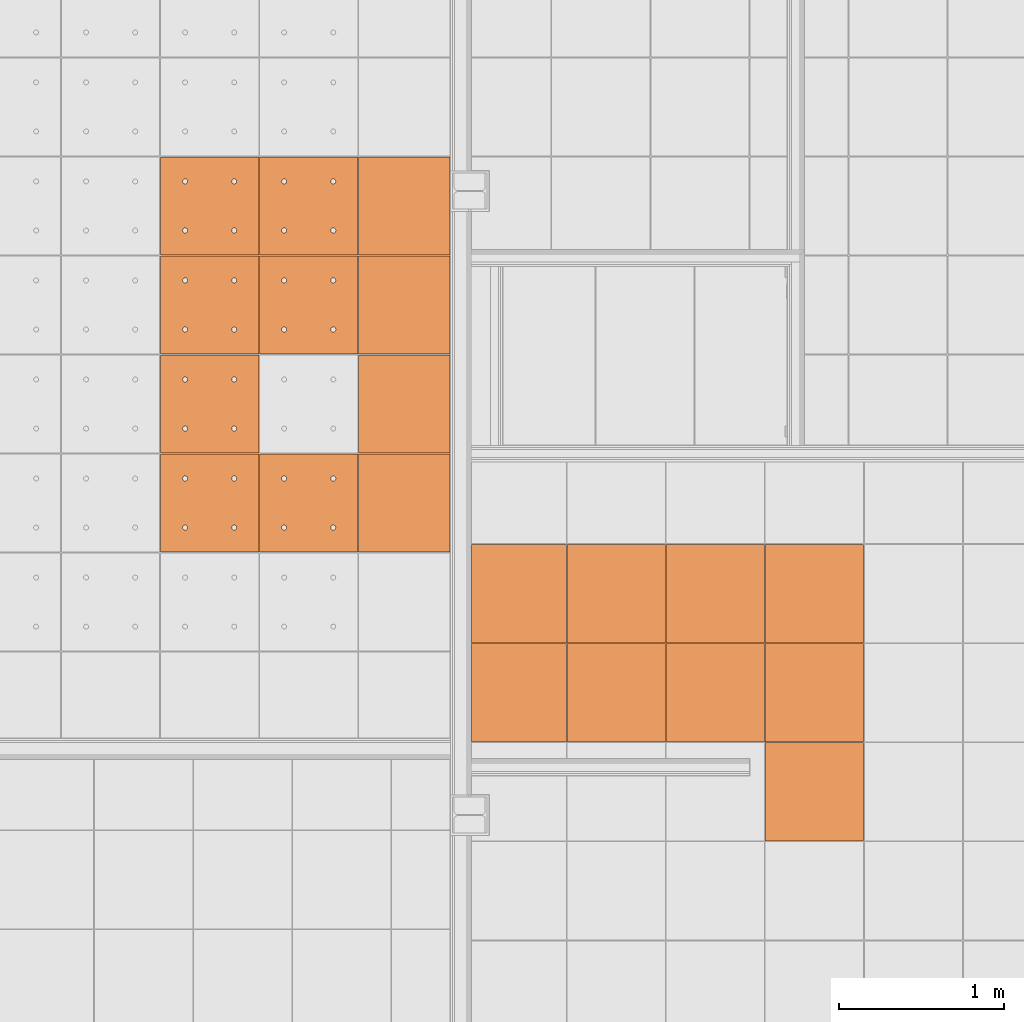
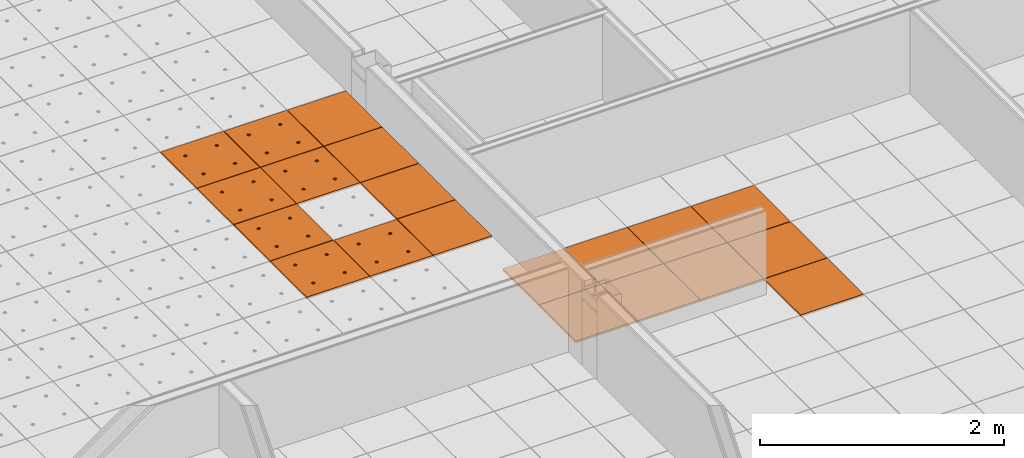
# One storey, part 290 of 338: 20 proxies, 2 elements without a shape of their own.
"""IFC2X3 building model written with IfcOpenShell, lengths in millimetres."""

from ifc_helpers import new_model, entity, si_unit, converted_unit, derived_unit, money_unit, direction, frame, origin_with_axes, place, context, subcontext, project, spatial, faceted_brep, source, transform, mapped, material, type_object, type_shapes, element, aggregate, save


model = new_model("IFC2X3")

# Units and contexts
model_context = context("Model", 3, precision=0.01, world=origin_with_axes(), true_north=direction((0.0, 1.0)))
plan_context = context("Plan", 3, precision=0.01, world=origin_with_axes(), true_north=direction((0.0, 1.0)))
body_context = subcontext(model_context, "Body", "Model", "MODEL_VIEW")
ifc_project = project(units=[si_unit("LENGTHUNIT", "METRE", prefix="MILLI"), si_unit("AREAUNIT", "SQUARE_METRE"), si_unit("VOLUMEUNIT", "CUBIC_METRE"), converted_unit("PLANEANGLEUNIT", "DEGREE", entity("IfcPlaneAngleMeasure", 0.0174532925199), si_unit("PLANEANGLEUNIT", "RADIAN"), dimensions=[0, 0, 0, 0, 0, 0, 0]), money_unit("EUR"), converted_unit("TIMEUNIT", "Year", entity("IfcTimeMeasure", 31556926.0), si_unit("TIMEUNIT", "SECOND"), dimensions=[0, 0, 1, 0, 0, 0, 0]), si_unit("MASSUNIT", "GRAM", prefix="KILO"), si_unit("THERMODYNAMICTEMPERATUREUNIT", "DEGREE_CELSIUS"), si_unit("LUMINOUSINTENSITYUNIT", "LUMEN"), si_unit("ENERGYUNIT", "JOULE", prefix="MEGA"), derived_unit("THERMALCONDUCTANCEUNIT", [(si_unit("POWERUNIT", "WATT"), 1), (si_unit("LENGTHUNIT", "METRE"), -1), (si_unit("THERMODYNAMICTEMPERATUREUNIT", "KELVIN"), -1)]), derived_unit("SPECIFICHEATCAPACITYUNIT", [(si_unit("ENERGYUNIT", "JOULE"), 1), (si_unit("MASSUNIT", "GRAM", prefix="KILO"), -1), (si_unit("THERMODYNAMICTEMPERATUREUNIT", "KELVIN"), -1)]), derived_unit("MASSDENSITYUNIT", [(si_unit("MASSUNIT", "GRAM", prefix="KILO"), 1), (si_unit("VOLUMEUNIT", "CUBIC_METRE"), -1)])], contexts=[model_context, plan_context])

# Site, building, storey
site_placement = place(None, origin_with_axes())
site = spatial("IfcSite", under=ifc_project, at=site_placement, Name="Fortuinstraat Woensdrecht", CompositionType="ELEMENT")
building_placement = place(site_placement, origin_with_axes())
building = spatial("IfcBuilding", under=site, at=building_placement, Name="IKC Fortuna", CompositionType="ELEMENT")
storey_placement = place(building_placement, origin_with_axes())
storey = spatial("IfcBuildingStorey", under=building, at=storey_placement, Name="00 begane grond", CompositionType="ELEMENT", Elevation=0.0)

# Covering, proxies
covering_type = type_object("IfcCoveringType", Name="Curtain Wall Type", PredefinedType="CEILING")
covering_1_placement = place(storey_placement, frame((29266.9722516, 29133.4974296, 2810.0), z_axis=(0.0, 0.0, 1.0), x_axis=(1.0, 0.0, 0.0)))
covering_1 = element("IfcCovering", 1, at=covering_1_placement, inside=storey, type_object=covering_type, Name="45_Plafondafwerking_P02 v", PredefinedType="CEILING")
ifc_material = material(Name="Gipsplaat")
building_element_proxy_type_1 = type_object("IfcBuildingElementProxyType", Name="Distinct Panel 600 x 600 x 20", PredefinedType="NOTDEFINED")
shared_shape_1 = source(origin_with_axes(), body_context, "Body", "Brep", [
    faceted_brep([(-2.49999999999, 2.5, -10.0), (-2.49999999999, 2.5, 10.0), (-597.5, 2.49999999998, 10.0), (-597.5, 2.49999999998, -10.0), (-2.50000000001, 597.5, -10.0), (-2.50000000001, 597.5, 10.0), (-597.5, 597.5, 10.0), (-597.5, 597.5, -10.0)], [[[0, 1, 2, 3]], [[4, 5, 1, 0]], [[1, 5, 6, 2]], [[3, 2, 6, 7]], [[0, 3, 7, 4]], [[7, 6, 5, 4]]]),
])
proxy_1_placement = place(covering_1_placement, frame((1790.03728037, 0.0, 0.0), z_axis=(0.0, 0.0, 1.0), x_axis=(1.0, 0.0, 0.0)))
proxy_1 = element("IfcBuildingElementProxy", 2, at=proxy_1_placement, type_object=building_element_proxy_type_1, material=ifc_material, Name="__Panel-D", context=body_context, shape_type="MappedRepresentation", body=[
    mapped(shared_shape_1, transform((-300.0, 300.0, 0.0), x_axis=(-1.0, 0.0, 0.0), y_axis=(0.0, -1.0, 0.0), z_axis=(0.0, 0.0, 1.0))),
])
proxy_2_placement = place(covering_1_placement, frame((590.037280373, 0.0, 0.0), z_axis=(0.0, 0.0, 1.0), x_axis=(1.0, 0.0, 0.0)))
proxy_2 = element("IfcBuildingElementProxy", 3, at=proxy_2_placement, type_object=building_element_proxy_type_1, material=ifc_material, Name="__Panel-D", context=body_context, shape_type="MappedRepresentation", body=[
    mapped(shared_shape_1, transform((-300.0, 300.0, 0.0), x_axis=(-1.0, 0.0, 0.0), y_axis=(0.0, -1.0, 0.0), z_axis=(0.0, 0.0, 1.0))),
])
proxy_3_placement = place(covering_1_placement, frame((1190.03728037, 0.0, 0.0), z_axis=(0.0, 0.0, 1.0), x_axis=(1.0, 0.0, 0.0)))
proxy_3 = element("IfcBuildingElementProxy", 4, at=proxy_3_placement, type_object=building_element_proxy_type_1, material=ifc_material, Name="__Panel-D", context=body_context, shape_type="MappedRepresentation", body=[
    mapped(shared_shape_1, transform((-300.0, 300.0, 0.0), x_axis=(-1.0, 0.0, 0.0), y_axis=(0.0, -1.0, 0.0), z_axis=(0.0, 0.0, 1.0))),
])
proxy_4_placement = place(covering_1_placement, frame((1190.03728037, -600.0, 0.0), z_axis=(0.0, 0.0, 1.0), x_axis=(1.0, 0.0, 0.0)))
proxy_4 = element("IfcBuildingElementProxy", 5, at=proxy_4_placement, type_object=building_element_proxy_type_1, material=ifc_material, Name="__Panel-D", context=body_context, shape_type="MappedRepresentation", body=[
    mapped(shared_shape_1, transform((-300.0, 300.0, 0.0), x_axis=(-1.0, 0.0, 0.0), y_axis=(0.0, -1.0, 0.0), z_axis=(0.0, 0.0, 1.0))),
])
proxy_5_placement = place(covering_1_placement, frame((1790.03728037, -1200.0, 0.0), z_axis=(0.0, 0.0, 1.0), x_axis=(1.0, 0.0, 0.0)))
proxy_5 = element("IfcBuildingElementProxy", 6, at=proxy_5_placement, type_object=building_element_proxy_type_1, material=ifc_material, Name="__Panel-D", context=body_context, shape_type="MappedRepresentation", body=[
    mapped(shared_shape_1, transform((-300.0, 300.0, 0.0), x_axis=(-1.0, 0.0, 0.0), y_axis=(0.0, -1.0, 0.0), z_axis=(0.0, 0.0, 1.0))),
])
shared_shape_2 = source(origin_with_axes(), body_context, "Body", "Brep", [
    faceted_brep([(-2.5000069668, 2.4999963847, -10.0), (-2.5000069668, 2.4999963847, 10.0), (-597.499995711, 2.50000275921, 10.0), (-597.499995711, 2.50000275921, -10.0), (-2.50000214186, 597.499967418, -10.0), (-2.50000214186, 597.499967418, 10.0), (-597.499990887, 597.499973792, 10.0), (-597.499990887, 597.499973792, -10.0)], [[[0, 1, 2, 3]], [[4, 5, 1, 0]], [[1, 5, 6, 2]], [[3, 2, 6, 7]], [[0, 3, 7, 4]], [[7, 6, 5, 4]]]),
])
type_shapes(building_element_proxy_type_1, [shared_shape_1, shared_shape_2])
proxy_6_placement = place(covering_1_placement, frame((1790.03728037, -600.0, 0.0), z_axis=(0.0, 0.0, 1.0), x_axis=(1.0, 0.0, 0.0)))
proxy_6 = element("IfcBuildingElementProxy", 7, at=proxy_6_placement, type_object=building_element_proxy_type_1, material=ifc_material, Name="__Panel-D", context=body_context, shape_type="MappedRepresentation", body=[
    mapped(shared_shape_2, transform((-300.0, 300.0, 0.0), x_axis=(-1.0, 0.0, 0.0), y_axis=(0.0, -1.0, 0.0), z_axis=(0.0, 0.0, 1.0))),
])
proxy_7_placement = place(covering_1_placement, frame((590.037280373, -600.0, 0.0), z_axis=(0.0, 0.0, 1.0), x_axis=(1.0, 0.0, 0.0)))
proxy_7 = element("IfcBuildingElementProxy", 8, at=proxy_7_placement, type_object=building_element_proxy_type_1, material=ifc_material, Name="__Panel-D", context=body_context, shape_type="MappedRepresentation", body=[
    mapped(shared_shape_2, transform((-300.0, 300.0, 0.0), x_axis=(-1.0, 0.0, 0.0), y_axis=(0.0, -1.0, 0.0), z_axis=(0.0, 0.0, 1.0))),
])

covering_2_placement = place(storey_placement, frame((24394.3550152, 31482.3495284, 3210.0), z_axis=(0.0, 0.0, 1.0), x_axis=(1.0, 0.0, 0.0)))
covering_2 = element("IfcCovering", 9, at=covering_2_placement, inside=storey, type_object=covering_type, Name="45_Plafondafwerking_P01", PredefinedType="CEILING")
building_element_proxy_type_2 = type_object("IfcBuildingElementProxyType", Name="Main Panel 600 x 600 x 20", PredefinedType="NOTDEFINED")
shared_shape_3 = source(origin_with_axes(), body_context, "Body", "Brep", [
    faceted_brep([(2.49999999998, 2.49999999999, -10.0), (300.0, 2.49999999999, -10.0), (300.0, 2.49999999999, 10.0), (2.49999999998, 2.49999999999, 10.0), (2.49999999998, 300.0, -10.0), (2.49999999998, 597.5, -10.0), (300.0, 597.5, -10.0), (597.5, 597.5, -10.0), (597.5, 300.0, -10.0), (597.5, 2.49999999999, -10.0), (166.25, 450.06232995, -10.0), (165.79423259, 452.64711538, -10.0), (164.896546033, 455.11348892, -10.0), (163.58421608, 457.38651108, -10.0), (161.897117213, 459.39711721, -10.0), (159.886511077, 461.08421608, -10.0), (157.613488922, 462.39654603, -10.0), (155.147115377, 463.29423259, -10.0), (152.562329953, 463.75, -10.0), (149.937670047, 463.75, -10.0), (147.352884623, 463.29423259, -10.0), (144.886511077, 462.39654603, -10.0), (142.613488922, 461.08421608, -10.0), (140.602882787, 459.39711721, -10.0), (138.91578392, 457.38651108, -10.0), (137.603453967, 455.11348892, -10.0), (136.705767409, 452.64711538, -10.0), (136.25, 450.06232995, -10.0), (136.25, 448.75, -10.0), (136.25, 447.43767005, -10.0), (136.705767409, 444.85288462, -10.0), (137.603453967, 442.38651108, -10.0), (138.91578392, 440.11348892, -10.0), (140.602882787, 438.10288279, -10.0), (142.613488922, 436.41578392, -10.0), (144.886511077, 435.10345397, -10.0), (147.352884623, 434.20576741, -10.0), (149.937670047, 433.75, -10.0), (152.562329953, 433.75, -10.0), (155.147115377, 434.20576741, -10.0), (157.613488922, 435.10345397, -10.0), (159.886511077, 436.41578392, -10.0), (161.897117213, 438.10288279, -10.0), (163.58421608, 440.11348892, -10.0), (164.896546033, 442.38651108, -10.0), (165.79423259, 444.85288462, -10.0), (166.25, 447.43767005, -10.0), (463.75, 450.06232995, -10.0), (463.29423259, 452.64711538, -10.0), (462.396546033, 455.11348892, -10.0), (461.08421608, 457.38651108, -10.0), (459.397117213, 459.39711721, -10.0), (457.386511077, 461.08421608, -10.0), (455.113488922, 462.39654603, -10.0), (452.647115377, 463.29423259, -10.0), (450.062329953, 463.75, -10.0), (447.437670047, 463.75, -10.0), (444.852884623, 463.29423259, -10.0), (442.386511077, 462.39654603, -10.0), (440.113488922, 461.08421608, -10.0), (438.102882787, 459.39711721, -10.0), (436.41578392, 457.38651108, -10.0), (435.103453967, 455.11348892, -10.0), (434.205767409, 452.64711538, -10.0), (433.75, 450.06232995, -10.0), (433.75, 448.75, -10.0), (433.75, 447.43767005, -10.0), (434.205767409, 444.85288462, -10.0), (435.103453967, 442.38651108, -10.0), (436.41578392, 440.11348892, -10.0), (438.102882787, 438.10288279, -10.0), (440.113488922, 436.41578392, -10.0), (442.386511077, 435.10345397, -10.0), (444.852884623, 434.20576741, -10.0), (447.437670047, 433.75, -10.0), (450.062329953, 433.75, -10.0), (452.647115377, 434.20576741, -10.0), (455.113488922, 435.10345397, -10.0), (457.386511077, 436.41578392, -10.0), (459.397117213, 438.10288279, -10.0), (461.08421608, 440.11348892, -10.0), (462.396546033, 442.38651108, -10.0), (463.29423259, 444.85288462, -10.0), (463.75, 447.43767005, -10.0), (463.75, 152.56232995, -10.0), (463.29423259, 155.14711538, -10.0), (462.396546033, 157.61348892, -10.0), (461.08421608, 159.88651108, -10.0), (459.397117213, 161.89711721, -10.0), (457.386511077, 163.58421608, -10.0), (455.113488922, 164.89654603, -10.0), (452.647115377, 165.79423259, -10.0), (450.062329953, 166.25, -10.0), (447.437670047, 166.25, -10.0), (444.852884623, 165.79423259, -10.0), (442.386511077, 164.89654603, -10.0), (440.113488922, 163.58421608, -10.0), (438.102882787, 161.89711721, -10.0), (436.41578392, 159.88651108, -10.0), (435.103453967, 157.61348892, -10.0), (434.205767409, 155.14711538, -10.0), (433.75, 152.56232995, -10.0), (433.75, 151.25, -10.0), (433.75, 149.93767005, -10.0), (434.205767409, 147.35288462, -10.0), (435.103453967, 144.88651108, -10.0), (436.41578392, 142.61348892, -10.0), (438.102882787, 140.60288279, -10.0), (440.113488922, 138.91578392, -10.0), (442.386511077, 137.60345397, -10.0), (444.852884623, 136.70576741, -10.0), (447.437670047, 136.25, -10.0), (450.062329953, 136.25, -10.0), (452.647115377, 136.70576741, -10.0), (455.113488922, 137.60345397, -10.0), (457.386511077, 138.91578392, -10.0), (459.397117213, 140.60288279, -10.0), (461.08421608, 142.61348892, -10.0), (462.396546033, 144.88651108, -10.0), (463.29423259, 147.35288462, -10.0), (463.75, 149.93767005, -10.0), (166.25, 152.56232995, -10.0), (165.79423259, 155.14711538, -10.0), (164.896546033, 157.61348892, -10.0), (163.58421608, 159.88651108, -10.0), (161.897117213, 161.89711721, -10.0), (159.886511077, 163.58421608, -10.0), (157.613488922, 164.89654603, -10.0), (155.147115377, 165.79423259, -10.0), (152.562329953, 166.25, -10.0), (149.937670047, 166.25, -10.0), (147.352884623, 165.79423259, -10.0), (144.886511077, 164.89654603, -10.0), (142.613488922, 163.58421608, -10.0), (140.602882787, 161.89711721, -10.0), (138.91578392, 159.88651108, -10.0), (137.603453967, 157.61348892, -10.0), (136.705767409, 155.14711538, -10.0), (136.25, 152.56232995, -10.0), (136.25, 151.25, -10.0), (136.25, 149.93767005, -10.0), (136.705767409, 147.35288462, -10.0), (137.603453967, 144.88651108, -10.0), (138.91578392, 142.61348892, -10.0), (140.602882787, 140.60288279, -10.0), (142.613488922, 138.91578392, -10.0), (144.886511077, 137.60345397, -10.0), (147.352884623, 136.70576741, -10.0), (149.937670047, 136.25, -10.0), (152.562329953, 136.25, -10.0), (155.147115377, 136.70576741, -10.0), (157.613488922, 137.60345397, -10.0), (159.886511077, 138.91578392, -10.0), (161.897117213, 140.60288279, -10.0), (163.58421608, 142.61348892, -10.0), (164.896546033, 144.88651108, -10.0), (165.79423259, 147.35288462, -10.0), (166.25, 149.93767005, -10.0), (597.5, 2.49999999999, 10.0), (597.5, 300.0, 10.0), (597.5, 597.5, 10.0), (300.0, 597.5, 10.0), (2.49999999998, 597.5, 10.0), (2.49999999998, 300.0, 10.0), (166.25, 450.06232995, 10.0), (166.25, 447.43767005, 10.0), (165.79423259, 444.85288462, 10.0), (164.896546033, 442.38651108, 10.0), (163.58421608, 440.11348892, 10.0), (161.897117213, 438.10288279, 10.0), (159.886511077, 436.41578392, 10.0), (157.613488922, 435.10345397, 10.0), (155.147115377, 434.20576741, 10.0), (152.562329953, 433.75, 10.0), (149.937670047, 433.75, 10.0), (147.352884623, 434.20576741, 10.0), (144.886511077, 435.10345397, 10.0), (142.613488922, 436.41578392, 10.0), (140.602882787, 438.10288279, 10.0), (138.91578392, 440.11348892, 10.0), (137.603453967, 442.38651108, 10.0), (136.705767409, 444.85288462, 10.0), (136.25, 447.43767005, 10.0), (136.25, 448.75, 10.0), (136.25, 450.06232995, 10.0), (136.705767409, 452.64711538, 10.0), (137.603453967, 455.11348892, 10.0), (138.91578392, 457.38651108, 10.0), (140.602882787, 459.39711721, 10.0), (142.613488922, 461.08421608, 10.0), (144.886511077, 462.39654603, 10.0), (147.352884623, 463.29423259, 10.0), (149.937670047, 463.75, 10.0), (152.562329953, 463.75, 10.0), (155.147115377, 463.29423259, 10.0), (157.613488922, 462.39654603, 10.0), (159.886511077, 461.08421608, 10.0), (161.897117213, 459.39711721, 10.0), (163.58421608, 457.38651108, 10.0), (164.896546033, 455.11348892, 10.0), (165.79423259, 452.64711538, 10.0), (463.75, 450.06232995, 10.0), (463.75, 447.43767005, 10.0), (463.29423259, 444.85288462, 10.0), (462.396546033, 442.38651108, 10.0), (461.08421608, 440.11348892, 10.0), (459.397117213, 438.10288279, 10.0), (457.386511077, 436.41578392, 10.0), (455.113488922, 435.10345397, 10.0), (452.647115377, 434.20576741, 10.0), (450.062329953, 433.75, 10.0), (447.437670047, 433.75, 10.0), (444.852884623, 434.20576741, 10.0), (442.386511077, 435.10345397, 10.0), (440.113488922, 436.41578392, 10.0), (438.102882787, 438.10288279, 10.0), (436.41578392, 440.11348892, 10.0), (435.103453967, 442.38651108, 10.0), (434.205767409, 444.85288462, 10.0), (433.75, 447.43767005, 10.0), (433.75, 448.75, 10.0), (433.75, 450.06232995, 10.0), (434.205767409, 452.64711538, 10.0), (435.103453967, 455.11348892, 10.0), (436.41578392, 457.38651108, 10.0), (438.102882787, 459.39711721, 10.0), (440.113488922, 461.08421608, 10.0), (442.386511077, 462.39654603, 10.0), (444.852884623, 463.29423259, 10.0), (447.437670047, 463.75, 10.0), (450.062329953, 463.75, 10.0), (452.647115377, 463.29423259, 10.0), (455.113488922, 462.39654603, 10.0), (457.386511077, 461.08421608, 10.0), (459.397117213, 459.39711721, 10.0), (461.08421608, 457.38651108, 10.0), (462.396546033, 455.11348892, 10.0), (463.29423259, 452.64711538, 10.0), (463.75, 152.56232995, 10.0), (463.75, 149.93767005, 10.0), (463.29423259, 147.35288462, 10.0), (462.396546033, 144.88651108, 10.0), (461.08421608, 142.61348892, 10.0), (459.397117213, 140.60288279, 10.0), (457.386511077, 138.91578392, 10.0), (455.113488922, 137.60345397, 10.0), (452.647115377, 136.70576741, 10.0), (450.062329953, 136.25, 10.0), (447.437670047, 136.25, 10.0), (444.852884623, 136.70576741, 10.0), (442.386511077, 137.60345397, 10.0), (440.113488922, 138.91578392, 10.0), (438.102882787, 140.60288279, 10.0), (436.41578392, 142.61348892, 10.0), (435.103453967, 144.88651108, 10.0), (434.205767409, 147.35288462, 10.0), (433.75, 149.93767005, 10.0), (433.75, 151.25, 10.0), (433.75, 152.56232995, 10.0), (434.205767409, 155.14711538, 10.0), (435.103453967, 157.61348892, 10.0), (436.41578392, 159.88651108, 10.0), (438.102882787, 161.89711721, 10.0), (440.113488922, 163.58421608, 10.0), (442.386511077, 164.89654603, 10.0), (444.852884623, 165.79423259, 10.0), (447.437670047, 166.25, 10.0), (450.062329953, 166.25, 10.0), (452.647115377, 165.79423259, 10.0), (455.113488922, 164.89654603, 10.0), (457.386511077, 163.58421608, 10.0), (459.397117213, 161.89711721, 10.0), (461.08421608, 159.88651108, 10.0), (462.396546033, 157.61348892, 10.0), (463.29423259, 155.14711538, 10.0), (166.25, 152.56232995, 10.0), (166.25, 149.93767005, 10.0), (165.79423259, 147.35288462, 10.0), (164.896546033, 144.88651108, 10.0), (163.58421608, 142.61348892, 10.0), (161.897117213, 140.60288279, 10.0), (159.886511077, 138.91578392, 10.0), (157.613488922, 137.60345397, 10.0), (155.147115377, 136.70576741, 10.0), (152.562329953, 136.25, 10.0), (149.937670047, 136.25, 10.0), (147.352884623, 136.70576741, 10.0), (144.886511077, 137.60345397, 10.0), (142.613488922, 138.91578392, 10.0), (140.602882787, 140.60288279, 10.0), (138.91578392, 142.61348892, 10.0), (137.603453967, 144.88651108, 10.0), (136.705767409, 147.35288462, 10.0), (136.25, 149.93767005, 10.0), (136.25, 151.25, 10.0), (136.25, 152.56232995, 10.0), (136.705767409, 155.14711538, 10.0), (137.603453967, 157.61348892, 10.0), (138.91578392, 159.88651108, 10.0), (140.602882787, 161.89711721, 10.0), (142.613488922, 163.58421608, 10.0), (144.886511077, 164.89654603, 10.0), (147.352884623, 165.79423259, 10.0), (149.937670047, 166.25, 10.0), (152.562329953, 166.25, 10.0), (155.147115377, 165.79423259, 10.0), (157.613488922, 164.89654603, 10.0), (159.886511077, 163.58421608, 10.0), (161.897117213, 161.89711721, 10.0), (163.58421608, 159.88651108, 10.0), (164.896546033, 157.61348892, 10.0), (165.79423259, 155.14711538, 10.0)], [[[0, 1, 2, 3]], [[0, 4, 5, 6, 7, 8, 9, 1], [10, 11, 12, 13, 14, 15, 16, 17, 18, 19, 20, 21, 22, 23, 24, 25, 26, 27, 28, 29, 30, 31, 32, 33, 34, 35, 36, 37, 38, 39, 40, 41, 42, 43, 44, 45, 46], [47, 48, 49, 50, 51, 52, 53, 54, 55, 56, 57, 58, 59, 60, 61, 62, 63, 64, 65, 66, 67, 68, 69, 70, 71, 72, 73, 74, 75, 76, 77, 78, 79, 80, 81, 82, 83], [84, 85, 86, 87, 88, 89, 90, 91, 92, 93, 94, 95, 96, 97, 98, 99, 100, 101, 102, 103, 104, 105, 106, 107, 108, 109, 110, 111, 112, 113, 114, 115, 116, 117, 118, 119, 120], [121, 122, 123, 124, 125, 126, 127, 128, 129, 130, 131, 132, 133, 134, 135, 136, 137, 138, 139, 140, 141, 142, 143, 144, 145, 146, 147, 148, 149, 150, 151, 152, 153, 154, 155, 156, 157]], [[1, 9, 158, 2]], [[3, 2, 158, 159, 160, 161, 162, 163], [164, 165, 166, 167, 168, 169, 170, 171, 172, 173, 174, 175, 176, 177, 178, 179, 180, 181, 182, 183, 184, 185, 186, 187, 188, 189, 190, 191, 192, 193, 194, 195, 196, 197, 198, 199, 200], [201, 202, 203, 204, 205, 206, 207, 208, 209, 210, 211, 212, 213, 214, 215, 216, 217, 218, 219, 220, 221, 222, 223, 224, 225, 226, 227, 228, 229, 230, 231, 232, 233, 234, 235, 236, 237], [238, 239, 240, 241, 242, 243, 244, 245, 246, 247, 248, 249, 250, 251, 252, 253, 254, 255, 256, 257, 258, 259, 260, 261, 262, 263, 264, 265, 266, 267, 268, 269, 270, 271, 272, 273, 274], [275, 276, 277, 278, 279, 280, 281, 282, 283, 284, 285, 286, 287, 288, 289, 290, 291, 292, 293, 294, 295, 296, 297, 298, 299, 300, 301, 302, 303, 304, 305, 306, 307, 308, 309, 310, 311]], [[4, 0, 3, 163]], [[5, 4, 163, 162]], [[6, 5, 162, 161]], [[7, 6, 161, 160]], [[8, 7, 160, 159]], [[9, 8, 159, 158]], [[11, 10, 164, 200]], [[12, 11, 200, 199]], [[13, 12, 199, 198]], [[14, 13, 198, 197]], [[15, 14, 197, 196]], [[16, 15, 196, 195]], [[17, 16, 195, 194]], [[18, 17, 194, 193]], [[19, 18, 193, 192]], [[20, 19, 192, 191]], [[21, 20, 191, 190]], [[22, 21, 190, 189]], [[23, 22, 189, 188]], [[24, 23, 188, 187]], [[25, 24, 187, 186]], [[26, 25, 186, 185]], [[27, 26, 185, 184]], [[28, 27, 184, 183]], [[29, 28, 183, 182]], [[30, 29, 182, 181]], [[31, 30, 181, 180]], [[32, 31, 180, 179]], [[33, 32, 179, 178]], [[34, 33, 178, 177]], [[35, 34, 177, 176]], [[36, 35, 176, 175]], [[37, 36, 175, 174]], [[38, 37, 174, 173]], [[39, 38, 173, 172]], [[40, 39, 172, 171]], [[41, 40, 171, 170]], [[42, 41, 170, 169]], [[43, 42, 169, 168]], [[44, 43, 168, 167]], [[45, 44, 167, 166]], [[46, 45, 166, 165]], [[10, 46, 165, 164]], [[48, 47, 201, 237]], [[49, 48, 237, 236]], [[50, 49, 236, 235]], [[51, 50, 235, 234]], [[52, 51, 234, 233]], [[53, 52, 233, 232]], [[54, 53, 232, 231]], [[55, 54, 231, 230]], [[56, 55, 230, 229]], [[57, 56, 229, 228]], [[58, 57, 228, 227]], [[59, 58, 227, 226]], [[60, 59, 226, 225]], [[61, 60, 225, 224]], [[62, 61, 224, 223]], [[63, 62, 223, 222]], [[64, 63, 222, 221]], [[65, 64, 221, 220]], [[66, 65, 220, 219]], [[67, 66, 219, 218]], [[68, 67, 218, 217]], [[69, 68, 217, 216]], [[70, 69, 216, 215]], [[71, 70, 215, 214]], [[72, 71, 214, 213]], [[73, 72, 213, 212]], [[74, 73, 212, 211]], [[75, 74, 211, 210]], [[76, 75, 210, 209]], [[77, 76, 209, 208]], [[78, 77, 208, 207]], [[79, 78, 207, 206]], [[80, 79, 206, 205]], [[81, 80, 205, 204]], [[82, 81, 204, 203]], [[83, 82, 203, 202]], [[47, 83, 202, 201]], [[85, 84, 238, 274]], [[86, 85, 274, 273]], [[87, 86, 273, 272]], [[88, 87, 272, 271]], [[89, 88, 271, 270]], [[90, 89, 270, 269]], [[91, 90, 269, 268]], [[92, 91, 268, 267]], [[93, 92, 267, 266]], [[94, 93, 266, 265]], [[95, 94, 265, 264]], [[96, 95, 264, 263]], [[97, 96, 263, 262]], [[98, 97, 262, 261]], [[99, 98, 261, 260]], [[100, 99, 260, 259]], [[101, 100, 259, 258]], [[102, 101, 258, 257]], [[103, 102, 257, 256]], [[104, 103, 256, 255]], [[105, 104, 255, 254]], [[106, 105, 254, 253]], [[107, 106, 253, 252]], [[108, 107, 252, 251]], [[109, 108, 251, 250]], [[110, 109, 250, 249]], [[111, 110, 249, 248]], [[112, 111, 248, 247]], [[113, 112, 247, 246]], [[114, 113, 246, 245]], [[115, 114, 245, 244]], [[116, 115, 244, 243]], [[117, 116, 243, 242]], [[118, 117, 242, 241]], [[119, 118, 241, 240]], [[120, 119, 240, 239]], [[84, 120, 239, 238]], [[122, 121, 275, 311]], [[123, 122, 311, 310]], [[124, 123, 310, 309]], [[125, 124, 309, 308]], [[126, 125, 308, 307]], [[127, 126, 307, 306]], [[128, 127, 306, 305]], [[129, 128, 305, 304]], [[130, 129, 304, 303]], [[131, 130, 303, 302]], [[132, 131, 302, 301]], [[133, 132, 301, 300]], [[134, 133, 300, 299]], [[135, 134, 299, 298]], [[136, 135, 298, 297]], [[137, 136, 297, 296]], [[138, 137, 296, 295]], [[139, 138, 295, 294]], [[140, 139, 294, 293]], [[141, 140, 293, 292]], [[142, 141, 292, 291]], [[143, 142, 291, 290]], [[144, 143, 290, 289]], [[145, 144, 289, 288]], [[146, 145, 288, 287]], [[147, 146, 287, 286]], [[148, 147, 286, 285]], [[149, 148, 285, 284]], [[150, 149, 284, 283]], [[151, 150, 283, 282]], [[152, 151, 282, 281]], [[153, 152, 281, 280]], [[154, 153, 280, 279]], [[155, 154, 279, 278]], [[156, 155, 278, 277]], [[157, 156, 277, 276]], [[121, 157, 276, 275]]]),
])
type_shapes(building_element_proxy_type_2, [shared_shape_3])
proxy_8_placement = place(covering_2_placement, frame((3600.0, 0.0, 0.0), z_axis=(0.0, 0.0, 1.0), x_axis=(1.0, 0.0, 0.0)))
proxy_8 = element("IfcBuildingElementProxy", 10, at=proxy_8_placement, type_object=building_element_proxy_type_2, material=ifc_material, Name="__600x675 Rockfon Krios", context=body_context, shape_type="MappedRepresentation", body=[
    mapped(shared_shape_3, transform((300.0, 300.0, 0.0), x_axis=(-1.0, 0.0, 0.0), y_axis=(0.0, -1.0, 0.0), z_axis=(0.0, 0.0, 1.0))),
])
proxy_9_placement = place(covering_2_placement, frame((3600.0, -600.0, 0.0), z_axis=(0.0, 0.0, 1.0), x_axis=(1.0, 0.0, 0.0)))
proxy_9 = element("IfcBuildingElementProxy", 11, at=proxy_9_placement, type_object=building_element_proxy_type_2, material=ifc_material, Name="__600x676 Rockfon Krios", context=body_context, shape_type="MappedRepresentation", body=[
    mapped(shared_shape_3, transform((300.0, 300.0, 0.0), x_axis=(-1.0, 0.0, 0.0), y_axis=(0.0, -1.0, 0.0), z_axis=(0.0, 0.0, 1.0))),
])
proxy_10_placement = place(covering_2_placement, frame((3600.0, -1800.0, 0.0), z_axis=(0.0, 0.0, 1.0), x_axis=(1.0, 0.0, 0.0)))
proxy_10 = element("IfcBuildingElementProxy", 12, at=proxy_10_placement, type_object=building_element_proxy_type_2, material=ifc_material, Name="__600x678 Rockfon Krios", context=body_context, shape_type="MappedRepresentation", body=[
    mapped(shared_shape_3, transform((300.0, 300.0, 0.0), x_axis=(-1.0, 0.0, 0.0), y_axis=(0.0, -1.0, 0.0), z_axis=(0.0, 0.0, 1.0))),
])
proxy_11_placement = place(covering_2_placement, frame((3000.0, 0.0, 0.0), z_axis=(0.0, 0.0, 1.0), x_axis=(1.0, 0.0, 0.0)))
proxy_11 = element("IfcBuildingElementProxy", 13, at=proxy_11_placement, type_object=building_element_proxy_type_2, material=ifc_material, Name="__600x684 Rockfon Krios", context=body_context, shape_type="MappedRepresentation", body=[
    mapped(shared_shape_3, transform((300.0, 300.0, 0.0), x_axis=(-1.0, 0.0, 0.0), y_axis=(0.0, -1.0, 0.0), z_axis=(0.0, 0.0, 1.0))),
])
proxy_12_placement = place(covering_2_placement, frame((3000.0, -600.0, 0.0), z_axis=(0.0, 0.0, 1.0), x_axis=(1.0, 0.0, 0.0)))
proxy_12 = element("IfcBuildingElementProxy", 14, at=proxy_12_placement, type_object=building_element_proxy_type_2, material=ifc_material, Name="__600x685 Rockfon Krios", context=body_context, shape_type="MappedRepresentation", body=[
    mapped(shared_shape_3, transform((300.0, 300.0, 0.0), x_axis=(-1.0, 0.0, 0.0), y_axis=(0.0, -1.0, 0.0), z_axis=(0.0, 0.0, 1.0))),
])
proxy_13_placement = place(covering_2_placement, frame((3000.0, -1200.0, 0.0), z_axis=(0.0, 0.0, 1.0), x_axis=(1.0, 0.0, 0.0)))
proxy_13 = element("IfcBuildingElementProxy", 15, at=proxy_13_placement, type_object=building_element_proxy_type_2, material=ifc_material, Name="__600x686 Rockfon Krios", context=body_context, shape_type="MappedRepresentation", body=[
    mapped(shared_shape_3, transform((300.0, 300.0, 0.0), x_axis=(-1.0, 0.0, 0.0), y_axis=(0.0, -1.0, 0.0), z_axis=(0.0, 0.0, 1.0))),
])
proxy_14_placement = place(covering_2_placement, frame((3000.0, -1800.0, 0.0), z_axis=(0.0, 0.0, 1.0), x_axis=(1.0, 0.0, 0.0)))
proxy_14 = element("IfcBuildingElementProxy", 16, at=proxy_14_placement, type_object=building_element_proxy_type_2, material=ifc_material, Name="__600x687 Rockfon Krios", context=body_context, shape_type="MappedRepresentation", body=[
    mapped(shared_shape_3, transform((300.0, 300.0, 0.0), x_axis=(-1.0, 0.0, 0.0), y_axis=(0.0, -1.0, 0.0), z_axis=(0.0, 0.0, 1.0))),
])

# Proxy
building_element_proxy_type_3 = type_object("IfcBuildingElementProxyType", Name="Distinct Panel 580 x 600 x 20", PredefinedType="NOTDEFINED")
shared_shape_4 = source(origin_with_axes(), body_context, "Body", "Brep", [
    faceted_brep([(-22.4254255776, 2.5, -10.0), (-22.4254255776, 2.5, 10.0), (-597.5, 2.49999999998, 10.0), (-597.5, 2.49999999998, -10.0), (-22.4254523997, 597.5, -10.0), (-22.4254523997, 597.5, 10.0), (-597.5, 597.5, 10.0), (-597.5, 597.5, -10.0)], [[[0, 1, 2, 3]], [[4, 5, 1, 0]], [[1, 5, 6, 2]], [[3, 2, 6, 7]], [[0, 3, 7, 4]], [[7, 6, 5, 4]]]),
])
proxy_15_placement = place(covering_1_placement, origin_with_axes())
proxy_15 = element("IfcBuildingElementProxy", 17, at=proxy_15_placement, type_object=building_element_proxy_type_3, material=ifc_material, Name="__Panel-D", context=body_context, shape_type="MappedRepresentation", body=[
    mapped(shared_shape_4, transform((-309.962719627, 300.0, 0.0), x_axis=(-1.0, 0.0, 0.0), y_axis=(0.0, -1.0, 0.0), z_axis=(0.0, 0.0, 1.0))),
])

shared_shape_5 = source(origin_with_axes(), body_context, "Body", "Brep", [
    faceted_brep([(-22.4254523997, 2.5, -10.0), (-22.4254523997, 2.5, 10.0), (-597.5, 2.49999999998, 10.0), (-597.5, 2.49999999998, -10.0), (-22.4254523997, 597.5, -10.0), (-22.4254523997, 597.5, 10.0), (-597.5, 597.5, 10.0), (-597.5, 597.5, -10.0)], [[[0, 1, 2, 3]], [[4, 5, 1, 0]], [[1, 5, 6, 2]], [[3, 2, 6, 7]], [[0, 3, 7, 4]], [[7, 6, 5, 4]]]),
])
type_shapes(building_element_proxy_type_3, [shared_shape_4, shared_shape_5])
proxy_16_placement = place(covering_1_placement, frame((5.87756687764e-06, -600.0, 0.0), z_axis=(0.0, 0.0, 1.0), x_axis=(1.0, 0.0, 0.0)))
proxy_16 = element("IfcBuildingElementProxy", 18, at=proxy_16_placement, type_object=building_element_proxy_type_3, material=ifc_material, Name="__Panel-D", context=body_context, shape_type="MappedRepresentation", body=[
    mapped(shared_shape_5, transform((-309.962725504, 300.0, 0.0), x_axis=(-1.0, 0.0, 0.0), y_axis=(0.0, -1.0, 0.0), z_axis=(0.0, 0.0, 1.0))),
])

aggregate(covering_1, [proxy_15, proxy_16, proxy_6, proxy_7, proxy_1, proxy_2, proxy_3, proxy_4, proxy_5])

building_element_proxy_type_4 = type_object("IfcBuildingElementProxyType", Name="558 x 600 x 20", PredefinedType="NOTDEFINED")
shared_shape_6 = source(origin_with_axes(), body_context, "Body", "Brep", [
    faceted_brep([(44.9200611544, 2.5, -10.0), (597.5, 2.49999999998, -10.0), (597.5, 2.49999999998, 10.0), (44.9200611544, 2.5, 10.0), (44.9200164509, 597.5, -10.0), (597.5, 597.5, -10.0), (597.5, 597.5, 10.0), (44.9200164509, 597.5, 10.0)], [[[0, 1, 2, 3]], [[0, 4, 5, 1]], [[1, 5, 6, 2]], [[3, 2, 6, 7]], [[4, 0, 3, 7]], [[5, 4, 7, 6]]]),
])
proxy_17_placement = place(covering_2_placement, frame((4178.78999197, -1200.0, 0.0), z_axis=(0.0, 0.0, 1.0), x_axis=(1.0, 0.0, 0.0)))
proxy_17 = element("IfcBuildingElementProxy", 19, at=proxy_17_placement, type_object=building_element_proxy_type_4, material=ifc_material, Name="__600x627 Rockfon Krios", context=body_context, shape_type="MappedRepresentation", body=[
    mapped(shared_shape_6, transform((321.210008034, 300.0, 0.0), x_axis=(-1.0, 0.0, 0.0), y_axis=(0.0, -1.0, 0.0), z_axis=(0.0, 0.0, 1.0))),
])

proxy_18_placement = place(covering_2_placement, frame((4178.78999197, -1800.0, 0.0), z_axis=(0.0, 0.0, 1.0), x_axis=(1.0, 0.0, 0.0)))
proxy_18 = element("IfcBuildingElementProxy", 20, at=proxy_18_placement, type_object=building_element_proxy_type_4, material=ifc_material, Name="__600x690 Rockfon Krios", context=body_context, shape_type="MappedRepresentation", body=[
    mapped(shared_shape_6, transform((321.210008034, 300.0, 0.0), x_axis=(-1.0, 0.0, 0.0), y_axis=(0.0, -1.0, 0.0), z_axis=(0.0, 0.0, 1.0))),
])

shared_shape_7 = source(origin_with_axes(), body_context, "Body", "Brep", [
    faceted_brep([(44.9200164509, 2.5, -10.0), (597.5, 2.49999999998, -10.0), (597.5, 2.49999999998, 10.0), (44.9200164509, 2.5, 10.0), (44.9200164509, 597.5, -10.0), (597.5, 597.5, -10.0), (597.5, 597.5, 10.0), (44.9200164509, 597.5, 10.0)], [[[0, 1, 2, 3]], [[0, 4, 5, 1]], [[1, 5, 6, 2]], [[3, 2, 6, 7]], [[4, 0, 3, 7]], [[5, 4, 7, 6]]]),
])
type_shapes(building_element_proxy_type_4, [shared_shape_6, shared_shape_7])
proxy_19_placement = place(covering_2_placement, frame((4178.78999197, -600.0, 0.0), z_axis=(0.0, 0.0, 1.0), x_axis=(1.0, 0.0, 0.0)))
proxy_19 = element("IfcBuildingElementProxy", 21, at=proxy_19_placement, type_object=building_element_proxy_type_4, material=ifc_material, Name="__600x672 Rockfon Krios", context=body_context, shape_type="MappedRepresentation", body=[
    mapped(shared_shape_7, transform((321.210008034, 300.0, 0.0), x_axis=(-1.0, 0.0, 0.0), y_axis=(0.0, -1.0, 0.0), z_axis=(0.0, 0.0, 1.0))),
])

proxy_20_placement = place(covering_2_placement, frame((4178.78999197, 1.10134124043e-10, 0.0), z_axis=(0.0, 0.0, 1.0), x_axis=(1.0, 0.0, 0.0)))
proxy_20 = element("IfcBuildingElementProxy", 22, at=proxy_20_placement, type_object=building_element_proxy_type_4, material=ifc_material, Name="__600x681 Rockfon Krios", context=body_context, shape_type="MappedRepresentation", body=[
    mapped(shared_shape_7, transform((321.210008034, 300.0, 0.0), x_axis=(-1.0, 0.0, 0.0), y_axis=(0.0, -1.0, 0.0), z_axis=(0.0, 0.0, 1.0))),
])

aggregate(covering_2, [proxy_17, proxy_19, proxy_8, proxy_9, proxy_10, proxy_20, proxy_11, proxy_12, proxy_13, proxy_14, proxy_18])

save(model, "model.ifc")
